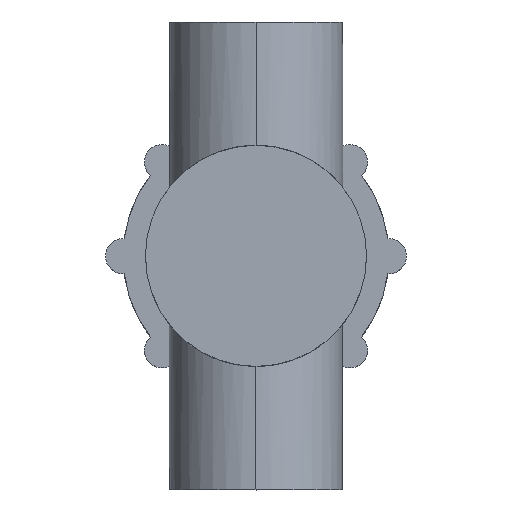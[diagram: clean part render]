
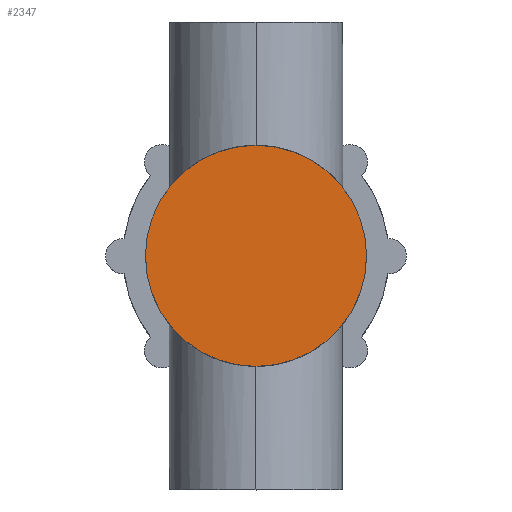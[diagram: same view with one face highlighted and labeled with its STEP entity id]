
A CAD part, top view. The second image highlights one B-rep face of the part: STEP entity #2347.
In plain terms, the highlighted planar face has unit normal (0, 0, 1).
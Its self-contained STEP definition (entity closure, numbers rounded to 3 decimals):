
#907=CARTESIAN_POINT('',(0.,0.,0.));
#908=DIRECTION('',(0.,0.,1.));
#909=DIRECTION('',(0.,1.,0.));
#910=AXIS2_PLACEMENT_3D('',#907,#908,#909);
#912=CARTESIAN_POINT('',(0.,0.,0.));
#913=DIRECTION('',(0.,0.,1.));
#914=DIRECTION('',(0.,-1.,0.));
#915=AXIS2_PLACEMENT_3D('',#912,#913,#914);
#969=CARTESIAN_POINT('',(0.,18.25,0.));
#1087=VERTEX_POINT('',#969);
#1090=CARTESIAN_POINT('',(0.,-18.25,0.));
#1091=VERTEX_POINT('',#1090);
#2338=CARTESIAN_POINT('',(0.,9.125,0.));
#2339=DIRECTION('',(0.,0.,1.));
#2340=DIRECTION('',(0.,1.,0.));
#2341=AXIS2_PLACEMENT_3D('',#2338,#2339,#2340);
#2342=PLANE('',#2341);
#2343=ORIENTED_EDGE('',*,*,#1417,.F.);
#2344=ORIENTED_EDGE('',*,*,#1437,.F.);
#2345=EDGE_LOOP('',(#2343,#2344));
#2346=FACE_OUTER_BOUND('',#2345,.F.);
#2347=ADVANCED_FACE('',(#2346),#2342,.T.);
#911=CIRCLE('',#910,18.25);
#916=CIRCLE('',#915,18.25);
#1417=EDGE_CURVE('',#1087,#1091,#911,.T.);
#1437=EDGE_CURVE('',#1091,#1087,#916,.T.);
